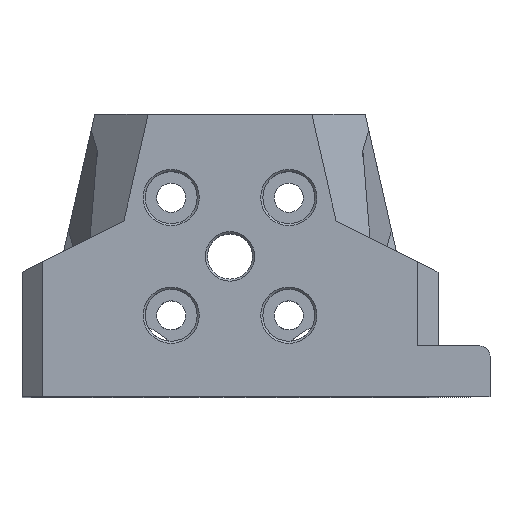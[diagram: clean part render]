
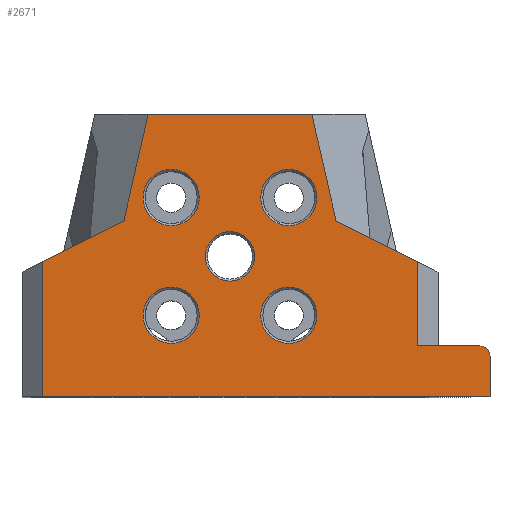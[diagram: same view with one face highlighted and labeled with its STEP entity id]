
A CAD part, top view. The second image highlights one B-rep face of the part: STEP entity #2671.
In plain terms, the highlighted planar face has unit normal (0, 0, 1).
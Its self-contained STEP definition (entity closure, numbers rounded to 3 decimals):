
#33=FACE_BOUND('',#331,.T.);
#34=FACE_BOUND('',#332,.T.);
#35=FACE_BOUND('',#333,.T.);
#36=FACE_BOUND('',#334,.T.);
#37=FACE_BOUND('',#335,.T.);
#184=FACE_OUTER_BOUND('',#330,.T.);
#330=EDGE_LOOP('',(#1971,#1972,#1973,#1974,#1975,#1976,#1977,#1978,#1979,
#1980,#1981));
#331=EDGE_LOOP('',(#1982));
#332=EDGE_LOOP('',(#1983));
#333=EDGE_LOOP('',(#1984));
#334=EDGE_LOOP('',(#1985));
#335=EDGE_LOOP('',(#1986));
#487=CIRCLE('',#2854,1.);
#488=CIRCLE('',#2855,2.7);
#489=CIRCLE('',#2856,2.7);
#490=CIRCLE('',#2857,2.7);
#491=CIRCLE('',#2858,2.375);
#492=CIRCLE('',#2859,2.7);
#557=LINE('',#3762,#827);
#575=LINE('',#4214,#845);
#583=LINE('',#4293,#853);
#594=LINE('',#4314,#864);
#598=LINE('',#4322,#868);
#629=LINE('',#5157,#899);
#633=LINE('',#5169,#903);
#634=LINE('',#5171,#904);
#635=LINE('',#5173,#905);
#636=LINE('',#5174,#906);
#827=VECTOR('',#3071,1000.);
#845=VECTOR('',#3127,1000.);
#853=VECTOR('',#3145,1000.);
#864=VECTOR('',#3158,1000.);
#868=VECTOR('',#3164,1000.);
#899=VECTOR('',#3217,1000.);
#903=VECTOR('',#3233,1000.);
#904=VECTOR('',#3234,1000.);
#905=VECTOR('',#3235,1000.);
#906=VECTOR('',#3236,1000.);
#1098=VERTEX_POINT('',#3759);
#1099=VERTEX_POINT('',#3761);
#1133=VERTEX_POINT('',#4211);
#1134=VERTEX_POINT('',#4213);
#1147=VERTEX_POINT('',#4291);
#1148=VERTEX_POINT('',#4292);
#1157=VERTEX_POINT('',#4312);
#1160=VERTEX_POINT('',#4321);
#1216=VERTEX_POINT('',#5155);
#1219=VERTEX_POINT('',#5170);
#1220=VERTEX_POINT('',#5172);
#1221=VERTEX_POINT('',#5175);
#1222=VERTEX_POINT('',#5177);
#1223=VERTEX_POINT('',#5179);
#1224=VERTEX_POINT('',#5181);
#1225=VERTEX_POINT('',#5183);
#1375=EDGE_CURVE('',#1098,#1099,#557,.T.);
#1418=EDGE_CURVE('',#1134,#1133,#575,.T.);
#1432=EDGE_CURVE('',#1147,#1148,#583,.T.);
#1443=EDGE_CURVE('',#1133,#1157,#594,.T.);
#1447=EDGE_CURVE('',#1148,#1160,#598,.T.);
#1514=EDGE_CURVE('',#1216,#1160,#629,.T.);
#1520=EDGE_CURVE('',#1157,#1147,#487,.F.);
#1521=EDGE_CURVE('',#1216,#1099,#633,.T.);
#1522=EDGE_CURVE('',#1219,#1098,#634,.T.);
#1523=EDGE_CURVE('',#1219,#1220,#635,.T.);
#1524=EDGE_CURVE('',#1134,#1220,#636,.T.);
#1525=EDGE_CURVE('',#1221,#1221,#488,.T.);
#1526=EDGE_CURVE('',#1222,#1222,#489,.T.);
#1527=EDGE_CURVE('',#1223,#1223,#490,.T.);
#1528=EDGE_CURVE('',#1224,#1224,#491,.T.);
#1529=EDGE_CURVE('',#1225,#1225,#492,.T.);
#1971=ORIENTED_EDGE('',*,*,#1443,.T.);
#1972=ORIENTED_EDGE('',*,*,#1520,.T.);
#1973=ORIENTED_EDGE('',*,*,#1432,.T.);
#1974=ORIENTED_EDGE('',*,*,#1447,.T.);
#1975=ORIENTED_EDGE('',*,*,#1514,.F.);
#1976=ORIENTED_EDGE('',*,*,#1521,.T.);
#1977=ORIENTED_EDGE('',*,*,#1375,.F.);
#1978=ORIENTED_EDGE('',*,*,#1522,.F.);
#1979=ORIENTED_EDGE('',*,*,#1523,.T.);
#1980=ORIENTED_EDGE('',*,*,#1524,.F.);
#1981=ORIENTED_EDGE('',*,*,#1418,.T.);
#1982=ORIENTED_EDGE('',*,*,#1525,.T.);
#1983=ORIENTED_EDGE('',*,*,#1526,.T.);
#1984=ORIENTED_EDGE('',*,*,#1527,.T.);
#1985=ORIENTED_EDGE('',*,*,#1528,.T.);
#1986=ORIENTED_EDGE('',*,*,#1529,.T.);
#2560=PLANE('',#2853);
#2671=ADVANCED_FACE('',(#184,#33,#34,#35,#36,#37),#2560,.F.);
#2853=AXIS2_PLACEMENT_3D('',#5167,#3229,#3230);
#2854=AXIS2_PLACEMENT_3D('',#5168,#3231,#3232);
#2855=AXIS2_PLACEMENT_3D('',#5176,#3237,#3238);
#2856=AXIS2_PLACEMENT_3D('',#5178,#3239,#3240);
#2857=AXIS2_PLACEMENT_3D('',#5180,#3241,#3242);
#2858=AXIS2_PLACEMENT_3D('',#5182,#3243,#3244);
#2859=AXIS2_PLACEMENT_3D('',#5184,#3245,#3246);
#3071=DIRECTION('',(1.,0.,0.));
#3127=DIRECTION('',(1.,0.,0.));
#3145=DIRECTION('',(-1.,0.,0.));
#3158=DIRECTION('',(0.,1.,0.));
#3164=DIRECTION('',(0.,1.,0.));
#3217=DIRECTION('',(0.894,-0.447,0.));
#3229=DIRECTION('center_axis',(0.,0.,-1.));
#3230=DIRECTION('ref_axis',(1.,0.,0.));
#3231=DIRECTION('center_axis',(0.,0.,-1.));
#3232=DIRECTION('ref_axis',(-1.,0.,0.));
#3233=DIRECTION('',(-0.222,0.975,0.));
#3234=DIRECTION('',(0.222,0.975,0.));
#3235=DIRECTION('',(-0.894,-0.447,0.));
#3236=DIRECTION('',(0.,1.,0.));
#3237=DIRECTION('center_axis',(0.,0.,-1.));
#3238=DIRECTION('ref_axis',(-1.,0.,0.));
#3239=DIRECTION('center_axis',(0.,0.,-1.));
#3240=DIRECTION('ref_axis',(-1.,0.,0.));
#3241=DIRECTION('center_axis',(0.,0.,-1.));
#3242=DIRECTION('ref_axis',(-1.,0.,0.));
#3243=DIRECTION('center_axis',(0.,0.,-1.));
#3244=DIRECTION('ref_axis',(-1.,0.,0.));
#3245=DIRECTION('center_axis',(0.,0.,-1.));
#3246=DIRECTION('ref_axis',(-1.,0.,0.));
#3759=CARTESIAN_POINT('',(-7.872,-16.5,27.));
#3761=CARTESIAN_POINT('',(7.872,-16.5,27.));
#3762=CARTESIAN_POINT('',(0.,-16.5,27.));
#4211=CARTESIAN_POINT('',(25.,-43.65,27.));
#4213=CARTESIAN_POINT('',(-18.,-43.65,27.));
#4214=CARTESIAN_POINT('',(-10.4,-43.65,27.));
#4291=CARTESIAN_POINT('',(24.,-38.75,27.));
#4292=CARTESIAN_POINT('',(18.,-38.75,27.));
#4293=CARTESIAN_POINT('',(25.,-38.75,27.));
#4312=CARTESIAN_POINT('',(25.,-39.75,27.));
#4314=CARTESIAN_POINT('',(25.,-41.2,27.));
#4321=CARTESIAN_POINT('',(18.,-30.65,27.));
#4322=CARTESIAN_POINT('',(18.,-30.025,27.));
#5155=CARTESIAN_POINT('',(10.211,-26.756,27.));
#5157=CARTESIAN_POINT('',(16.112,-29.706,27.));
#5167=CARTESIAN_POINT('Origin',(0.95,-30.025,27.));
#5168=CARTESIAN_POINT('Origin',(24.,-39.75,27.));
#5169=CARTESIAN_POINT('',(10.462,-27.855,27.));
#5170=CARTESIAN_POINT('',(-10.211,-26.756,27.));
#5171=CARTESIAN_POINT('',(-10.462,-27.855,27.));
#5172=CARTESIAN_POINT('',(-18.,-30.65,27.));
#5173=CARTESIAN_POINT('',(-16.112,-29.706,27.));
#5174=CARTESIAN_POINT('',(-18.,-30.025,27.));
#5175=CARTESIAN_POINT('',(2.957,-35.807,27.));
#5176=CARTESIAN_POINT('Origin',(5.657,-35.807,27.));
#5177=CARTESIAN_POINT('',(2.957,-24.493,27.));
#5178=CARTESIAN_POINT('Origin',(5.657,-24.493,27.));
#5179=CARTESIAN_POINT('',(-8.357,-24.493,27.));
#5180=CARTESIAN_POINT('Origin',(-5.657,-24.493,27.));
#5181=CARTESIAN_POINT('',(-2.375,-30.15,27.));
#5182=CARTESIAN_POINT('Origin',(0.,-30.15,27.));
#5183=CARTESIAN_POINT('',(-8.357,-35.807,27.));
#5184=CARTESIAN_POINT('Origin',(-5.657,-35.807,27.));
